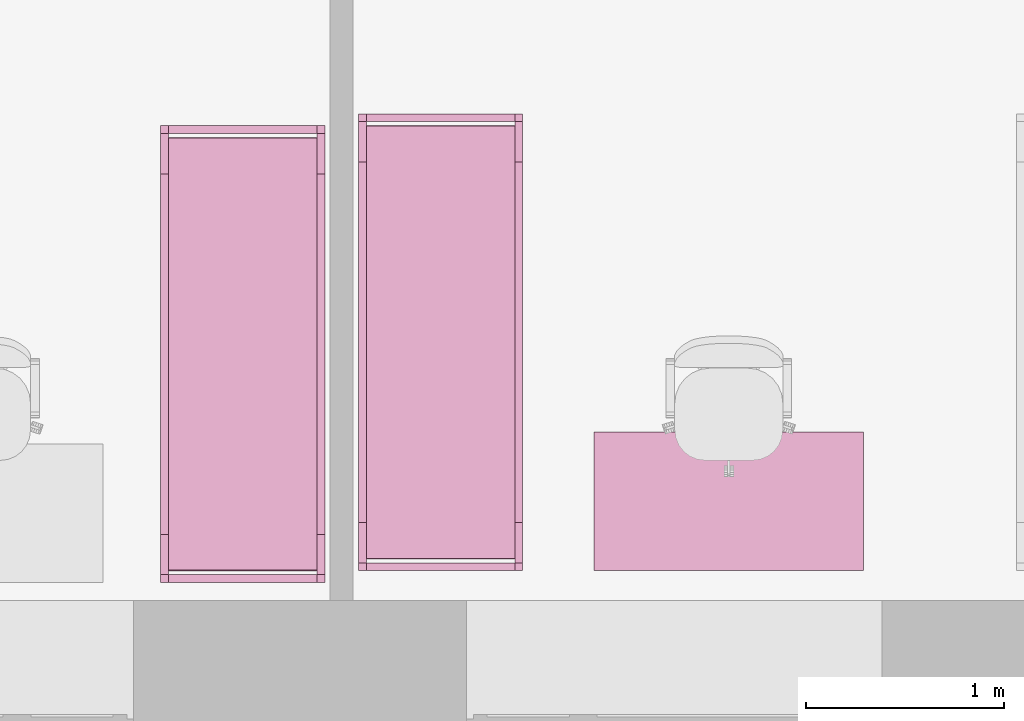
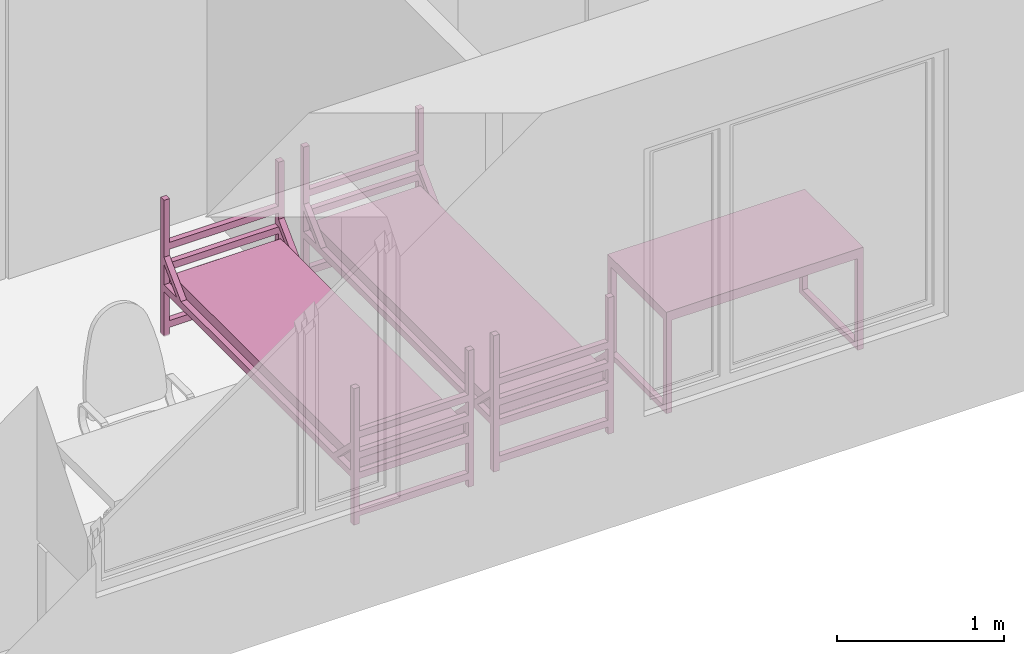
# One storey, part 22 of 46: 3 furnishings.
"""IFC2X3 building model written with IfcOpenShell, lengths in millimetres."""

from ifc_helpers import new_model, entity, si_unit, converted_unit, derived_unit, direction, frame, frame_2d, origin, origin_2d_with_axis, place, context, subcontext, project, spatial, polyline, circle_curve, parameter, trimmed, segment, composite_curve, rectangle, outline, extrude, faceted_brep, source, transform, mapped, material, material_list, type_object, type_shapes, element, save


model = new_model("IFC2X3")

# Units and contexts
model_context = context("Model", 3, precision=0.01, world=origin(), true_north=direction((6.12303176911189e-17, 1.0)))
body_context = subcontext(model_context, "Body", "Model", "MODEL_VIEW")
ifc_project = project(units=[si_unit("LENGTHUNIT", "METRE", prefix="MILLI"), si_unit("AREAUNIT", "SQUARE_METRE"), si_unit("VOLUMEUNIT", "CUBIC_METRE"), converted_unit("PLANEANGLEUNIT", "DEGREE", entity("IfcRatioMeasure", 0.0174532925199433), si_unit("PLANEANGLEUNIT", "RADIAN"), dimensions=[0, 0, 0, 0, 0, 0, 0]), si_unit("MASSUNIT", "GRAM", prefix="KILO"), derived_unit("MASSDENSITYUNIT", [(si_unit("MASSUNIT", "GRAM", prefix="KILO"), 1), (si_unit("LENGTHUNIT", "METRE"), -3)]), si_unit("TIMEUNIT", "SECOND"), si_unit("FREQUENCYUNIT", "HERTZ"), si_unit("THERMODYNAMICTEMPERATUREUNIT", "DEGREE_CELSIUS"), derived_unit("THERMALTRANSMITTANCEUNIT", [(si_unit("MASSUNIT", "GRAM", prefix="KILO"), 1), (si_unit("THERMODYNAMICTEMPERATUREUNIT", "KELVIN"), -1), (si_unit("TIMEUNIT", "SECOND"), -3)]), derived_unit("VOLUMETRICFLOWRATEUNIT", [(si_unit("LENGTHUNIT", "METRE"), 3), (si_unit("TIMEUNIT", "SECOND"), -1)]), si_unit("ELECTRICCURRENTUNIT", "AMPERE"), si_unit("ELECTRICVOLTAGEUNIT", "VOLT"), si_unit("POWERUNIT", "WATT"), si_unit("FORCEUNIT", "NEWTON", prefix="KILO"), si_unit("ILLUMINANCEUNIT", "LUX"), si_unit("LUMINOUSFLUXUNIT", "LUMEN"), si_unit("LUMINOUSINTENSITYUNIT", "CANDELA"), derived_unit("USERDEFINED", [(si_unit("MASSUNIT", "GRAM", prefix="KILO"), -1), (si_unit("LENGTHUNIT", "METRE"), -2), (si_unit("TIMEUNIT", "SECOND"), 3), (si_unit("LUMINOUSFLUXUNIT", "LUMEN"), 1)]), derived_unit("LINEARVELOCITYUNIT", [(si_unit("LENGTHUNIT", "METRE"), 1), (si_unit("TIMEUNIT", "SECOND"), -1)]), si_unit("PRESSUREUNIT", "PASCAL"), derived_unit("USERDEFINED", [(si_unit("LENGTHUNIT", "METRE"), -2), (si_unit("MASSUNIT", "GRAM", prefix="KILO"), 1), (si_unit("TIMEUNIT", "SECOND"), -2)]), derived_unit("LINEARFORCEUNIT", [(si_unit("MASSUNIT", "GRAM", prefix="KILO"), 1), (si_unit("LENGTHUNIT", "METRE"), 1), (si_unit("TIMEUNIT", "SECOND"), -2), (si_unit("LENGTHUNIT", "METRE"), -1)]), derived_unit("PLANARFORCEUNIT", [(si_unit("MASSUNIT", "GRAM", prefix="KILO"), 1), (si_unit("LENGTHUNIT", "METRE"), 1), (si_unit("TIMEUNIT", "SECOND"), -2), (si_unit("LENGTHUNIT", "METRE"), -2)])], contexts=[model_context])

# Site, building, storey, space
site_placement = place(None, origin())
site = spatial("IfcSite", under=ifc_project, at=site_placement, Name="Default", CompositionType="ELEMENT")
building_placement = place(site_placement, origin())
building = spatial("IfcBuilding", under=site, at=building_placement, Name="SMA ARH", CompositionType="ELEMENT")
storey_placement = place(building_placement, frame((0.0, 0.0, 9910.0)))
storey = spatial("IfcBuildingStorey", under=building, at=storey_placement, Name="4 Korrus", CompositionType="ELEMENT", Elevation=9909.9999999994)
space_1_placement = place(storey_placement, origin())
space_1 = spatial("IfcSpace", under=storey, at=space_1_placement, Name="4-12", CompositionType="ELEMENT", InteriorOrExteriorSpace="INTERNAL")

# Furnishings
ifc_material_1 = material(Name="Madrats")
furniture_type_1 = type_object("IfcFurnitureType", Name="Kasarmu voodi ühekordne 2308x830:Kasarmu voodi ühekordne 2308x830", material=ifc_material_1)
shared_shape_1 = source(origin(), body_context, "Body", "SweptSolid", [
    extrude(rectangle(XDim=39.9999999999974, YDim=750.000000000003, at=frame_2d((-1.35003119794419e-13, -2.8421709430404e-14), x_axis=(1.0, 0.0))), frame((1.68638457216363, -1226.7969571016, 55.0), z_axis=(0.0, 0.0, 1.0), x_axis=(0.0, -1.0, 0.0)), (0.0, 0.0, 1.0), 49.9999999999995),
    extrude(rectangle(XDim=39.9999999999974, YDim=750.000000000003, at=frame_2d((-1.35003119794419e-13, -2.8421709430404e-14), x_axis=(1.0, 0.0))), frame((1.68638457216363, -1226.7969571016, 325.0), z_axis=(0.0, 0.0, 1.0), x_axis=(0.0, -1.0, 0.0)), (0.0, 0.0, 1.0), 49.9999999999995),
    extrude(rectangle(XDim=39.9999999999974, YDim=750.000000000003, at=frame_2d((-1.35003119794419e-13, -2.8421709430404e-14), x_axis=(1.0, 0.0))), frame((1.68638457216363, -1226.7969571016, 475.0), z_axis=(0.0, 0.0, 1.0), x_axis=(0.0, -1.0, 0.0)), (0.0, 0.0, 1.0), 49.9999999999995),
    extrude(rectangle(XDim=39.9999999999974, YDim=750.000000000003, at=frame_2d((-1.35003119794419e-13, -2.8421709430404e-14), x_axis=(1.0, 0.0))), frame((1.68638457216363, -1226.7969571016, 625.0), z_axis=(0.0, 0.0, 1.0), x_axis=(0.0, -1.0, 0.0)), (0.0, 0.0, 1.0), 50.0000000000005),
    extrude(rectangle(XDim=39.9999999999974, YDim=750.000000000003, at=frame_2d((1.35003119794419e-13, -2.8421709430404e-14), x_axis=(1.0, 0.0))), frame((1.68638457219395, 1041.2030428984, 55.0), z_axis=(0.0, 0.0, 1.0), x_axis=(0.0, -1.0, 0.0)), (0.0, 0.0, 1.0), 50.0000000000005),
    extrude(rectangle(XDim=39.9999999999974, YDim=750.000000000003, at=frame_2d((1.35003119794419e-13, -2.8421709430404e-14), x_axis=(1.0, 0.0))), frame((1.68638457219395, 1041.2030428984, 325.0), z_axis=(0.0, 0.0, 1.0), x_axis=(0.0, -1.0, 0.0)), (0.0, 0.0, 1.0), 50.0000000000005),
    extrude(rectangle(XDim=39.9999999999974, YDim=750.000000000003, at=frame_2d((1.35003119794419e-13, -2.8421709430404e-14), x_axis=(1.0, 0.0))), frame((1.68638457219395, 1041.2030428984, 475.0), z_axis=(0.0, 0.0, 1.0), x_axis=(0.0, -1.0, 0.0)), (0.0, 0.0, 1.0), 50.0000000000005),
    extrude(rectangle(XDim=39.9999999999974, YDim=750.000000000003, at=frame_2d((1.35003119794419e-13, -2.8421709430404e-14), x_axis=(1.0, 0.0))), frame((1.68638457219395, 1041.2030428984, 625.0), z_axis=(0.0, 0.0, 1.0), x_axis=(0.0, -1.0, 0.0)), (0.0, 0.0, 1.0), 49.9999999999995),
    extrude(outline(composite_curve([segment(trimmed(circle_curve(frame_2d((1085.0, -40.0), x_axis=(1.0, 0.0)), 10.0), [parameter(270.0)], [parameter(0.0)], True, "PARAMETER"), True, "CONTINUOUS"), segment(polyline([(1095.0, -40.0), (1095.0, 40.0)]), True, "CONTINUOUS"), segment(trimmed(circle_curve(frame_2d((1085.0, 40.0), x_axis=(1.0, 0.0)), 10.0), [parameter(0.0)], [parameter(90.0000000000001)], True, "PARAMETER"), True, "CONTINUOUS"), segment(polyline([(1085.0, 50.0), (-1085.0, 50.0)]), True, "CONTINUOUS"), segment(trimmed(circle_curve(frame_2d((-1085.0, 40.0), x_axis=(1.0, 0.0)), 10.0), [parameter(90.0000000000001)], [parameter(180.0)], True, "PARAMETER"), True, "CONTINUOUS"), segment(polyline([(-1095.0, 40.0), (-1095.0, -40.0)]), True, "CONTINUOUS"), segment(trimmed(circle_curve(frame_2d((-1085.0, -40.0), x_axis=(1.0, 0.0)), 10.0), [parameter(180.0)], [parameter(270.0)], True, "PARAMETER"), True, "CONTINUOUS"), segment(polyline([(-1085.0, -50.0), (1085.0, -50.0)]), True, "CONTINUOUS")], self_intersect=False)), frame((-373.313615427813, -92.7969571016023, 405.0), z_axis=(1.0, 0.0, 0.0), x_axis=(0.0, -1.0, 0.0)), (0.0, 0.0, 1.0), 750.000000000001),
    extrude(outline(polyline([(-1114.0, -100.0), (1114.0, -100.0), (1114.0, -50.0), (961.59199141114, -50.0), (1114.0, 100.0), (1114.0, 150.0), (910.789321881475, -50.0), (-910.789321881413, -50.0), (-1114.0, 150.0), (-1114.0, 100.0), (-961.591991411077, -50.0), (-1114.0, -50.0), (-1114.0, -100.0)])), frame((-413.313615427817, -92.7969571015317, 430.0), z_axis=(1.0, 0.0, 0.0), x_axis=(0.0, 1.0, 0.0)), (0.0, 0.0, 1.0), 39.9999999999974),
    extrude(outline(polyline([(-1114.0, -100.0), (1114.0, -100.0), (1114.0, -50.0), (961.591991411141, -50.0), (1114.0, 100.0), (1114.0, 150.0), (910.789321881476, -50.0), (-910.789321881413, -50.0), (-1114.0, 150.0), (-1114.0, 100.0), (-961.591991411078, -50.0), (-1114.0, -50.0), (-1114.0, -100.0)])), frame((376.686384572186, -92.796957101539, 430.0), z_axis=(1.0, 0.0, 0.0), x_axis=(0.0, 1.0, 0.0)), (0.0, 0.0, 1.0), 39.9999999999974),
    extrude(rectangle(XDim=39.9999999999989, YDim=39.9999999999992, at=frame_2d((-6.75015598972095e-14, 0.0), x_axis=(1.0, 0.0))), frame((396.686384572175, -1226.79695710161, 0.0), z_axis=(0.0, 0.0, 1.0), x_axis=(0.0, 1.0, 0.0)), (0.0, 0.0, 1.0), 995.0),
    extrude(rectangle(XDim=39.9999999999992, YDim=39.9999999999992, at=frame_2d((-1.35003119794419e-13, 0.0), x_axis=(1.0, 0.0))), frame((396.686384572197, 1041.20304289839, 0.0), z_axis=(0.0, 0.0, 1.0), x_axis=(0.0, 1.0, 0.0)), (0.0, 0.0, 1.0), 995.0),
    extrude(rectangle(XDim=40.0000000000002, YDim=39.9999999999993, at=frame_2d((-1.35003119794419e-13, 0.0), x_axis=(1.0, 0.0))), frame((-393.313615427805, 1041.2030428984, 0.0), z_axis=(0.0, 0.0, 1.0), x_axis=(0.0, 1.0, 0.0)), (0.0, 0.0, 1.0), 995.0),
    extrude(rectangle(XDim=39.9999999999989, YDim=39.9999999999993, at=frame_2d((-6.75015598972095e-14, 0.0), x_axis=(1.0, 0.0))), frame((-393.313615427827, -1226.7969571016, 0.0), z_axis=(0.0, 0.0, 1.0), x_axis=(0.0, 1.0, 0.0)), (0.0, 0.0, 1.0), 995.0),
])
type_shapes(furniture_type_1, [shared_shape_1])
furnishing_1_placement = place(space_1_placement, frame((12427.8136154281, 1396.7969571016, 0.0)))
element("IfcFurnishingElement", 1, at=furnishing_1_placement, inside=space_1, type_object=furniture_type_1, material=ifc_material_1, Name="Kasarmu voodi ühekordne 2308x830:Kasarmu voodi ühekordne 2308x830", ObjectType="Kasarmu voodi ühekordne 2308x830:Kasarmu voodi ühekordne 2308x830", context=body_context, shape_type="MappedRepresentation", body=[
    mapped(shared_shape_1, transform((0.0, 0.0, 0.0), scale=1.0)),
])
ifc_material_2 = material(Name="<Unnamed>")
ifc_material_list = material_list([ifc_material_2, ifc_material_2])
furniture_type_2 = type_object("IfcFurnitureType", Name="kirjutuslaud 1360x700mm:kirjutuslaud 1360x700mm", material=ifc_material_list)
shared_shape_2 = source(origin(), body_context, "Body", "Brep", [
    faceted_brep([(680.0, -350.0, 720.0), (680.0, 350.0, 720.0), (680.0, 350.0, 750.0), (680.0, -350.0, 750.0), (-680.0, -350.0, 720.0), (-680.0, -350.0, 750.0), (-680.0, 350.0, 750.0), (-680.0, 350.0, 720.0)], [[[0, 1, 2, 3]], [[4, 5, 6, 7]], [[1, 0, 4, 7]], [[2, 1, 7, 6]], [[3, 2, 6, 5]], [[0, 3, 5, 4]]]),
    faceted_brep([(-640.0, -310.0, 680.0), (-640.0, 310.0, 680.0), (-640.0, 310.0, 720.0), (-640.0, -310.0, 720.0), (-680.0, -350.0, 720.0), (-680.0, 350.0, 720.0), (-680.0, 350.0, 10.0), (-680.0, -350.0, 10.0), (-680.0, 310.0, 680.0), (-680.0, -310.0, 680.0), (-680.0, -310.0, 50.0), (-680.0, 310.0, 50.0), (-640.0, -350.0, 10.0), (-640.0, -350.0, 680.0), (640.0, -350.0, 680.0), (640.0, -350.0, 10.0), (680.0, -350.0, 10.0), (680.0, -350.0, 720.0), (-640.0, 350.0, 10.0), (680.0, 350.0, 720.0), (680.0, 350.0, 10.0), (640.0, 350.0, 10.0), (640.0, 350.0, 680.0), (-640.0, 350.0, 680.0), (640.0, 310.0, 720.0), (640.0, -310.0, 720.0), (-640.0, 310.0, 50.0), (-640.0, -310.0, 50.0), (640.0, -310.0, 680.0), (640.0, 310.0, 680.0), (680.0, 310.0, 680.0), (680.0, 310.0, 50.0), (680.0, -310.0, 50.0), (680.0, -310.0, 680.0), (640.0, -310.0, 50.0), (640.0, 310.0, 50.0)], [[[0, 1, 2, 3]], [[4, 5, 6, 7], [8, 9, 10, 11]], [[4, 7, 12, 13, 14, 15, 16, 17]], [[18, 12, 7, 6]], [[6, 5, 19, 20, 21, 22, 23, 18]], [[19, 5, 4, 17], [2, 24, 25, 3]], [[26, 1, 8, 11]], [[27, 26, 11, 10]], [[0, 27, 10, 9]], [[1, 0, 9, 8]], [[14, 13, 0, 28]], [[24, 2, 1, 29]], [[3, 25, 28, 0]], [[17, 16, 20, 19], [30, 31, 32, 33]], [[21, 15, 14, 28, 34, 35, 29, 22]], [[20, 16, 15, 21]], [[31, 30, 29, 35]], [[32, 31, 35, 34]], [[33, 32, 34, 28]], [[30, 33, 28, 29]], [[29, 28, 25, 24]], [[29, 1, 23, 22]], [[12, 18, 23, 1, 26, 27, 0, 13]]]),
    faceted_brep([(-663.729456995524, -270.466136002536, 0.0), (-659.847171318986, -269.955023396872, 0.0), (-655.964885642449, -270.466136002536, 0.0), (-652.347171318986, -271.964642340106, 0.0), (-649.240569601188, -274.348421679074, 0.0), (-646.85679026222, -277.455023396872, 0.0), (-645.35828392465, -281.072737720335, 0.0), (-644.847171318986, -284.955023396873, 0.0), (-645.35828392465, -288.83730907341, 0.0), (-646.85679026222, -292.455023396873, 0.0), (-649.240569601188, -295.561625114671, 0.0), (-652.347171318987, -297.945404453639, 0.0), (-655.964885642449, -299.443910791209, 0.0), (-659.847171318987, -299.955023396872, 0.0), (-663.729456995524, -299.443910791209, 0.0), (-667.347171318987, -297.945404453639, 0.0), (-670.453773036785, -295.561625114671, 0.0), (-672.837552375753, -292.455023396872, 0.0), (-674.336058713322, -288.83730907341, 0.0), (-674.847171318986, -284.955023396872, 0.0), (-674.336058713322, -281.072737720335, 0.0), (-672.837552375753, -277.455023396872, 0.0), (-670.453773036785, -274.348421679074, 0.0), (-667.347171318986, -271.964642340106, 0.0), (-655.964885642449, -299.443910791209, 10.0), (-652.347171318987, -297.945404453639, 10.0), (-649.240569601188, -295.561625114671, 10.0), (-646.85679026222, -292.455023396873, 10.0), (-645.35828392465, -288.83730907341, 10.0), (-644.847171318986, -284.955023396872, 10.0), (-645.35828392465, -281.072737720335, 10.0), (-646.85679026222, -277.455023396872, 10.0), (-649.240569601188, -274.348421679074, 10.0), (-652.347171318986, -271.964642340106, 10.0), (-655.964885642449, -270.466136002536, 10.0), (-659.847171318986, -269.955023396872, 10.0), (-663.729456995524, -270.466136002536, 10.0), (-667.347171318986, -271.964642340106, 10.0), (-670.453773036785, -274.348421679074, 10.0), (-672.837552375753, -277.455023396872, 10.0), (-674.336058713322, -281.072737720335, 10.0), (-674.847171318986, -284.955023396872, 10.0), (-674.336058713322, -288.83730907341, 10.0), (-672.837552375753, -292.455023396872, 10.0), (-670.453773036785, -295.561625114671, 10.0), (-667.347171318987, -297.945404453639, 10.0), (-663.729456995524, -299.443910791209, 10.0), (-659.847171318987, -299.955023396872, 10.0)], [[[0, 1, 2, 3, 4, 5, 6, 7, 8, 9, 10, 11, 12, 13, 14, 15, 16, 17, 18, 19, 20, 21, 22, 23]], [[24, 25, 26, 27, 28, 29, 30, 31, 32, 33, 34, 35, 36, 37, 38, 39, 40, 41, 42, 43, 44, 45, 46, 47]], [[18, 42, 41, 19]], [[17, 43, 42, 18]], [[45, 44, 16, 15]], [[17, 16, 44, 43]], [[46, 45, 15, 14]], [[47, 46, 14, 13]], [[12, 24, 47, 13]], [[11, 25, 24, 12]], [[27, 26, 10, 9]], [[11, 10, 26, 25]], [[28, 27, 9, 8]], [[29, 28, 8, 7]], [[6, 30, 29, 7]], [[5, 31, 30, 6]], [[33, 32, 4, 3]], [[5, 4, 32, 31]], [[34, 33, 3, 2]], [[35, 34, 2, 1]], [[0, 36, 35, 1]], [[23, 37, 36, 0]], [[39, 38, 22, 21]], [[23, 22, 38, 37]], [[40, 39, 21, 20]], [[41, 40, 20, 19]]]),
    faceted_brep([(-655.964885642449, 270.466136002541, 10.0), (-652.347171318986, 271.964642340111, 10.0), (-649.240569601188, 274.348421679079, 10.0), (-646.85679026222, 277.455023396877, 10.0), (-645.35828392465, 281.07273772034, 10.0), (-644.847171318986, 284.955023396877, 10.0), (-645.35828392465, 288.837309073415, 10.0), (-646.85679026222, 292.455023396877, 10.0), (-649.240569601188, 295.561625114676, 10.0), (-652.347171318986, 297.945404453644, 10.0), (-655.964885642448, 299.443910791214, 10.0), (-659.847171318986, 299.955023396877, 10.0), (-663.729456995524, 299.443910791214, 10.0), (-667.347171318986, 297.945404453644, 10.0), (-670.453773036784, 295.561625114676, 10.0), (-672.837552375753, 292.455023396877, 10.0), (-674.336058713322, 288.837309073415, 10.0), (-674.847171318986, 284.955023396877, 10.0), (-674.336058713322, 281.07273772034, 10.0), (-672.837552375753, 277.455023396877, 10.0), (-670.453773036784, 274.348421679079, 10.0), (-667.347171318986, 271.964642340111, 10.0), (-663.729456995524, 270.466136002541, 10.0), (-659.847171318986, 269.955023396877, 10.0), (-655.964885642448, 299.443910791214, 0.0), (-652.347171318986, 297.945404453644, 0.0), (-649.240569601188, 295.561625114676, 0.0), (-646.85679026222, 292.455023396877, 0.0), (-645.35828392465, 288.837309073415, 0.0), (-644.847171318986, 284.955023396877, 0.0), (-645.35828392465, 281.07273772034, 0.0), (-646.85679026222, 277.455023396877, 0.0), (-649.240569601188, 274.348421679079, 0.0), (-652.347171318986, 271.964642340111, 0.0), (-655.964885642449, 270.466136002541, 0.0), (-659.847171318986, 269.955023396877, 0.0), (-663.729456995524, 270.466136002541, 0.0), (-667.347171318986, 271.964642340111, 0.0), (-670.453773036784, 274.348421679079, 0.0), (-672.837552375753, 277.455023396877, 0.0), (-674.336058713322, 281.07273772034, 0.0), (-674.847171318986, 284.955023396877, 0.0), (-674.336058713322, 288.837309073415, 0.0), (-672.837552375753, 292.455023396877, 0.0), (-670.453773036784, 295.561625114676, 0.0), (-667.347171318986, 297.945404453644, 0.0), (-663.729456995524, 299.443910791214, 0.0), (-659.847171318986, 299.955023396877, 0.0)], [[[0, 1, 2, 3, 4, 5, 6, 7, 8, 9, 10, 11, 12, 13, 14, 15, 16, 17, 18, 19, 20, 21, 22, 23]], [[24, 25, 26, 27, 28, 29, 30, 31, 32, 33, 34, 35, 36, 37, 38, 39, 40, 41, 42, 43, 44, 45, 46, 47]], [[40, 18, 17, 41]], [[39, 19, 18, 40]], [[21, 20, 38, 37]], [[39, 38, 20, 19]], [[22, 21, 37, 36]], [[23, 22, 36, 35]], [[34, 0, 23, 35]], [[33, 1, 0, 34]], [[3, 2, 32, 31]], [[33, 32, 2, 1]], [[4, 3, 31, 30]], [[5, 4, 30, 29]], [[28, 6, 5, 29]], [[27, 7, 6, 28]], [[9, 8, 26, 25]], [[27, 26, 8, 7]], [[10, 9, 25, 24]], [[11, 10, 24, 47]], [[46, 12, 11, 47]], [[45, 13, 12, 46]], [[15, 14, 44, 43]], [[45, 44, 14, 13]], [[16, 15, 43, 42]], [[17, 16, 42, 41]]]),
    faceted_brep([(656.270543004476, -270.466136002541, 0.0), (660.152828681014, -269.955023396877, 0.0), (664.035114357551, -270.466136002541, 0.0), (667.652828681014, -271.96464234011, 0.0), (670.759430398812, -274.348421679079, 0.0), (673.14320973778, -277.455023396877, 0.0), (674.64171607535, -281.072737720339, 0.0), (675.152828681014, -284.955023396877, 0.0), (674.64171607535, -288.837309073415, 0.0), (673.14320973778, -292.455023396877, 0.0), (670.759430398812, -295.561625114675, 0.0), (667.652828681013, -297.945404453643, 0.0), (664.035114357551, -299.443910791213, 0.0), (660.152828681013, -299.955023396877, 0.0), (656.270543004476, -299.443910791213, 0.0), (652.652828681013, -297.945404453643, 0.0), (649.546226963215, -295.561625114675, 0.0), (647.162447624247, -292.455023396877, 0.0), (645.663941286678, -288.837309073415, 0.0), (645.152828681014, -284.955023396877, 0.0), (645.663941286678, -281.072737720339, 0.0), (647.162447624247, -277.455023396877, 0.0), (649.546226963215, -274.348421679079, 0.0), (652.652828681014, -271.96464234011, 0.0), (664.035114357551, -299.443910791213, 10.0), (667.652828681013, -297.945404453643, 10.0), (670.759430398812, -295.561625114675, 10.0), (673.14320973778, -292.455023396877, 10.0), (674.64171607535, -288.837309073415, 10.0), (675.152828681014, -284.955023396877, 10.0), (674.64171607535, -281.072737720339, 10.0), (673.14320973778, -277.455023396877, 10.0), (670.759430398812, -274.348421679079, 10.0), (667.652828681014, -271.96464234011, 10.0), (664.035114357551, -270.466136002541, 10.0), (660.152828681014, -269.955023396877, 10.0), (656.270543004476, -270.466136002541, 10.0), (652.652828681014, -271.96464234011, 10.0), (649.546226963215, -274.348421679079, 10.0), (647.162447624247, -277.455023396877, 10.0), (645.663941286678, -281.072737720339, 10.0), (645.152828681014, -284.955023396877, 10.0), (645.663941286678, -288.837309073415, 10.0), (647.162447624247, -292.455023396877, 10.0), (649.546226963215, -295.561625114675, 10.0), (652.652828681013, -297.945404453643, 10.0), (656.270543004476, -299.443910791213, 10.0), (660.152828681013, -299.955023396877, 10.0)], [[[0, 1, 2, 3, 4, 5, 6, 7, 8, 9, 10, 11, 12, 13, 14, 15, 16, 17, 18, 19, 20, 21, 22, 23]], [[24, 25, 26, 27, 28, 29, 30, 31, 32, 33, 34, 35, 36, 37, 38, 39, 40, 41, 42, 43, 44, 45, 46, 47]], [[18, 42, 41, 19]], [[17, 43, 42, 18]], [[45, 44, 16, 15]], [[17, 16, 44, 43]], [[46, 45, 15, 14]], [[47, 46, 14, 13]], [[12, 24, 47, 13]], [[11, 25, 24, 12]], [[27, 26, 10, 9]], [[11, 10, 26, 25]], [[28, 27, 9, 8]], [[29, 28, 8, 7]], [[6, 30, 29, 7]], [[5, 31, 30, 6]], [[33, 32, 4, 3]], [[5, 4, 32, 31]], [[34, 33, 3, 2]], [[35, 34, 2, 1]], [[0, 36, 35, 1]], [[23, 37, 36, 0]], [[39, 38, 22, 21]], [[23, 22, 38, 37]], [[40, 39, 21, 20]], [[41, 40, 20, 19]]]),
    faceted_brep([(664.035114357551, 270.466136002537, 10.0), (667.652828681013, 271.964642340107, 10.0), (670.759430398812, 274.348421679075, 10.0), (673.14320973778, 277.455023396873, 10.0), (674.64171607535, 281.072737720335, 10.0), (675.152828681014, 284.955023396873, 10.0), (674.64171607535, 288.837309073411, 10.0), (673.14320973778, 292.455023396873, 10.0), (670.759430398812, 295.561625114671, 10.0), (667.652828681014, 297.94540445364, 10.0), (664.035114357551, 299.443910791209, 10.0), (660.152828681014, 299.955023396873, 10.0), (656.270543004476, 299.443910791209, 10.0), (652.652828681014, 297.94540445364, 10.0), (649.546226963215, 295.561625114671, 10.0), (647.162447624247, 292.455023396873, 10.0), (645.663941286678, 288.837309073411, 10.0), (645.152828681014, 284.955023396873, 10.0), (645.663941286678, 281.072737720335, 10.0), (647.162447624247, 277.455023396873, 10.0), (649.546226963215, 274.348421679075, 10.0), (652.652828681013, 271.964642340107, 10.0), (656.270543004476, 270.466136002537, 10.0), (660.152828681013, 269.955023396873, 10.0), (664.035114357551, 299.443910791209, 0.0), (667.652828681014, 297.94540445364, 0.0), (670.759430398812, 295.561625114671, 0.0), (673.14320973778, 292.455023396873, 0.0), (674.64171607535, 288.837309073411, 0.0), (675.152828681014, 284.955023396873, 0.0), (674.64171607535, 281.072737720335, 0.0), (673.14320973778, 277.455023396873, 0.0), (670.759430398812, 274.348421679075, 0.0), (667.652828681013, 271.964642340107, 0.0), (664.035114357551, 270.466136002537, 0.0), (660.152828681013, 269.955023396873, 0.0), (656.270543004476, 270.466136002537, 0.0), (652.652828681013, 271.964642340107, 0.0), (649.546226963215, 274.348421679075, 0.0), (647.162447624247, 277.455023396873, 0.0), (645.663941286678, 281.072737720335, 0.0), (645.152828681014, 284.955023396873, 0.0), (645.663941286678, 288.837309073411, 0.0), (647.162447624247, 292.455023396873, 0.0), (649.546226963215, 295.561625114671, 0.0), (652.652828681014, 297.94540445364, 0.0), (656.270543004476, 299.443910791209, 0.0), (660.152828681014, 299.955023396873, 0.0)], [[[0, 1, 2, 3, 4, 5, 6, 7, 8, 9, 10, 11, 12, 13, 14, 15, 16, 17, 18, 19, 20, 21, 22, 23]], [[24, 25, 26, 27, 28, 29, 30, 31, 32, 33, 34, 35, 36, 37, 38, 39, 40, 41, 42, 43, 44, 45, 46, 47]], [[40, 18, 17, 41]], [[39, 19, 18, 40]], [[21, 20, 38, 37]], [[39, 38, 20, 19]], [[22, 21, 37, 36]], [[23, 22, 36, 35]], [[34, 0, 23, 35]], [[33, 1, 0, 34]], [[3, 2, 32, 31]], [[33, 32, 2, 1]], [[4, 3, 31, 30]], [[5, 4, 30, 29]], [[28, 6, 5, 29]], [[27, 7, 6, 28]], [[9, 8, 26, 25]], [[27, 26, 8, 7]], [[10, 9, 25, 24]], [[11, 10, 24, 47]], [[46, 12, 11, 47]], [[45, 13, 12, 46]], [[15, 14, 44, 43]], [[45, 44, 14, 13]], [[16, 15, 43, 42]], [[17, 16, 42, 41]]]),
])
type_shapes(furniture_type_2, [shared_shape_2])
furnishing_2_placement = place(space_1_placement, frame((13885.5000000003, 500.0, 0.0)))
element("IfcFurnishingElement", 2, at=furnishing_2_placement, inside=space_1, type_object=furniture_type_2, Name="kirjutuslaud 1360x700mm:kirjutuslaud 1360x700mm", ObjectType="kirjutuslaud 1360x700mm:kirjutuslaud 1360x700mm", context=body_context, shape_type="MappedRepresentation", body=[
    mapped(shared_shape_2, transform((0.0, 0.0, 0.0), scale=1.0)),
])

# Space
space_2_placement = place(storey_placement, origin())
space_2 = spatial("IfcSpace", under=storey, at=space_2_placement, Name="4-13", CompositionType="ELEMENT", InteriorOrExteriorSpace="INTERNAL")

# Furnishing
furniture_type_3 = type_object("IfcFurnitureType", Name="Kasarmu voodi ühekordne 2308x830:Kasarmu voodi ühekordne 2308x830", material=ifc_material_1)
shared_shape_3 = source(origin(), body_context, "Body", "SweptSolid", [
    extrude(rectangle(XDim=750.000000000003, YDim=39.9999999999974, at=frame_2d((0.0, 1.35003119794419e-13), x_axis=(1.0, 0.0))), frame((1.68638457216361, 1226.7969571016, 55.0)), (0.0, 0.0, 1.0), 49.9999999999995),
    extrude(rectangle(XDim=750.000000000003, YDim=39.9999999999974, at=frame_2d((0.0, 1.35003119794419e-13), x_axis=(1.0, 0.0))), frame((1.68638457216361, 1226.7969571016, 325.0)), (0.0, 0.0, 1.0), 49.9999999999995),
    extrude(rectangle(XDim=750.000000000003, YDim=39.9999999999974, at=frame_2d((0.0, 1.35003119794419e-13), x_axis=(1.0, 0.0))), frame((1.68638457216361, 1226.7969571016, 475.0)), (0.0, 0.0, 1.0), 49.9999999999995),
    extrude(rectangle(XDim=750.000000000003, YDim=39.9999999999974, at=frame_2d((0.0, 1.35003119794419e-13), x_axis=(1.0, 0.0))), frame((1.68638457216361, 1226.7969571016, 625.0)), (0.0, 0.0, 1.0), 50.0000000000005),
    extrude(rectangle(XDim=750.000000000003, YDim=39.9999999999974, at=origin_2d_with_axis()), frame((1.68638457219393, -1041.2030428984, 55.0)), (0.0, 0.0, 1.0), 50.0000000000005),
    extrude(rectangle(XDim=750.000000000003, YDim=39.9999999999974, at=origin_2d_with_axis()), frame((1.68638457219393, -1041.2030428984, 325.0)), (0.0, 0.0, 1.0), 50.0000000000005),
    extrude(rectangle(XDim=750.000000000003, YDim=39.9999999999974, at=origin_2d_with_axis()), frame((1.68638457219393, -1041.2030428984, 475.0)), (0.0, 0.0, 1.0), 50.0000000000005),
    extrude(rectangle(XDim=750.000000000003, YDim=39.9999999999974, at=origin_2d_with_axis()), frame((1.68638457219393, -1041.2030428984, 625.0)), (0.0, 0.0, 1.0), 49.9999999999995),
    extrude(outline(composite_curve([segment(polyline([(-1085.0, -50.0), (1085.0, -50.0)]), True, "CONTINUOUS"), segment(trimmed(circle_curve(frame_2d((1085.0, -40.0), x_axis=(-1.0, 0.0)), 10.0), [parameter(90.0000000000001)], [parameter(180.0)], True, "PARAMETER"), True, "CONTINUOUS"), segment(polyline([(1095.0, -40.0), (1095.0, 40.0)]), True, "CONTINUOUS"), segment(trimmed(circle_curve(frame_2d((1085.0, 40.0), x_axis=(-1.0, 0.0)), 10.0), [parameter(180.0)], [parameter(270.0)], True, "PARAMETER"), True, "CONTINUOUS"), segment(polyline([(1085.0, 50.0), (-1085.0, 50.0)]), True, "CONTINUOUS"), segment(trimmed(circle_curve(frame_2d((-1085.0, 40.0), x_axis=(-1.0, 0.0)), 10.0), [parameter(270.0)], [parameter(0.0)], True, "PARAMETER"), True, "CONTINUOUS"), segment(polyline([(-1095.0, 40.0), (-1095.0, -40.0)]), True, "CONTINUOUS"), segment(trimmed(circle_curve(frame_2d((-1085.0, -40.0), x_axis=(-1.0, 0.0)), 10.0), [parameter(0.0)], [parameter(90.0000000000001)], True, "PARAMETER"), True, "CONTINUOUS")], self_intersect=False)), frame((-373.313615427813, 92.7969571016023, 405.0), z_axis=(1.0, 0.0, 0.0), x_axis=(0.0, -1.0, 0.0)), (0.0, 0.0, 1.0), 750.000000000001),
    extrude(outline(polyline([(-100.0, -1114.0), (-50.0, -1114.0), (-50.0, -961.591991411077), (100.0, -1114.0), (150.0, -1114.0), (-50.0, -910.789321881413), (-50.0, 910.789321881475), (150.0, 1114.0), (100.0, 1114.0), (-50.0, 961.591991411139), (-50.0, 1114.0), (-100.0, 1114.0), (-100.0, -1114.0)])), frame((-413.313615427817, 92.7969571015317, 430.0), z_axis=(1.0, 0.0, 0.0), x_axis=(0.0, 0.0, 1.0)), (0.0, 0.0, 1.0), 39.9999999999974),
    extrude(outline(polyline([(-100.0, -1114.0), (-50.0, -1114.0), (-50.0, -961.591991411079), (100.0, -1114.0), (150.0, -1114.0), (-50.0, -910.789321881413), (-50.0, 910.789321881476), (150.0, 1114.0), (100.0, 1114.0), (-50.0, 961.591991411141), (-50.0, 1114.0), (-100.0, 1114.0), (-100.0, -1114.0)])), frame((376.686384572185, 92.796957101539, 430.0), z_axis=(1.0, 0.0, 0.0), x_axis=(0.0, 0.0, 1.0)), (0.0, 0.0, 1.0), 39.9999999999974),
    extrude(rectangle(XDim=39.9999999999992, YDim=39.9999999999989, at=frame_2d((0.0, -6.75015598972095e-14), x_axis=(1.0, 0.0))), frame((396.686384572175, 1226.79695710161, 0.0), z_axis=(0.0, 0.0, 1.0), x_axis=(-1.0, 0.0, 0.0)), (0.0, 0.0, 1.0), 995.0),
    extrude(rectangle(XDim=39.9999999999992, YDim=39.9999999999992, at=origin_2d_with_axis()), frame((396.686384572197, -1041.20304289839, 0.0), z_axis=(0.0, 0.0, 1.0), x_axis=(-1.0, 0.0, 0.0)), (0.0, 0.0, 1.0), 995.0),
    extrude(rectangle(XDim=39.9999999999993, YDim=40.0000000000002, at=origin_2d_with_axis()), frame((-393.313615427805, -1041.2030428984, 0.0), z_axis=(0.0, 0.0, 1.0), x_axis=(-1.0, 0.0, 0.0)), (0.0, 0.0, 1.0), 995.0),
    extrude(rectangle(XDim=39.9999999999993, YDim=39.9999999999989, at=frame_2d((0.0, -6.75015598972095e-14), x_axis=(1.0, 0.0))), frame((-393.313615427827, 1226.7969571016, 0.0), z_axis=(0.0, 0.0, 1.0), x_axis=(-1.0, 0.0, 0.0)), (0.0, 0.0, 1.0), 995.0),
])
type_shapes(furniture_type_3, [shared_shape_3])
furnishing_3_placement = place(space_2_placement, frame((11432.1863845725, 1336.79695710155, 0.0), z_axis=(0.0, 0.0, 1.0), x_axis=(-1.0, 0.0, 0.0)))
element("IfcFurnishingElement", 3, at=furnishing_3_placement, inside=space_2, type_object=furniture_type_3, material=ifc_material_1, Name="Kasarmu voodi ühekordne 2308x830:Kasarmu voodi ühekordne 2308x830", ObjectType="Kasarmu voodi ühekordne 2308x830:Kasarmu voodi ühekordne 2308x830", context=body_context, shape_type="MappedRepresentation", body=[
    mapped(shared_shape_3, transform((0.0, 0.0, 0.0), scale=1.0)),
])

save(model, "model.ifc")
